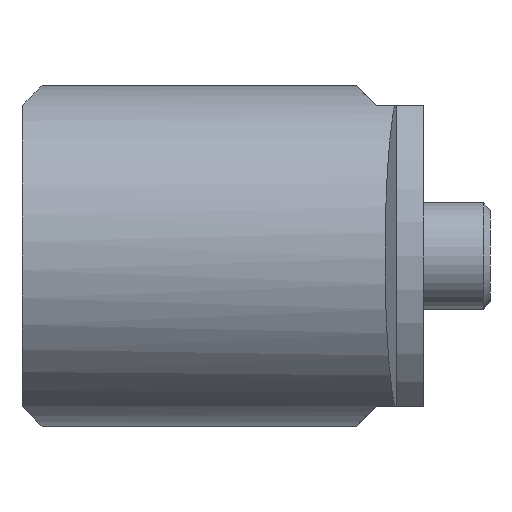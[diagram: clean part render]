
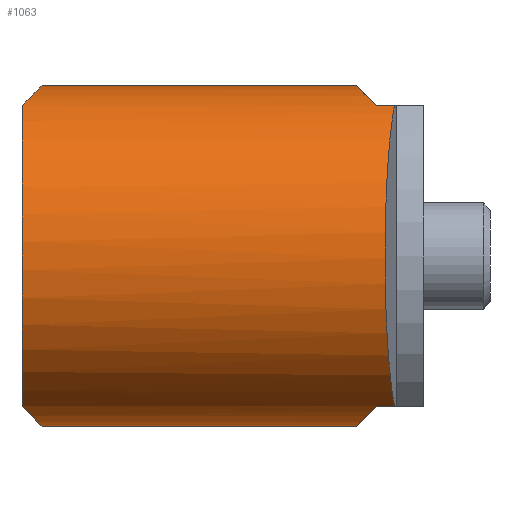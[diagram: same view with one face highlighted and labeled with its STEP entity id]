
A CAD part, left-side view. The second image highlights one B-rep face of the part: STEP entity #1063.
In plain terms, the highlighted cylindrical face has radius 12.75 mm (diameter 25.5 mm), a partial arc.
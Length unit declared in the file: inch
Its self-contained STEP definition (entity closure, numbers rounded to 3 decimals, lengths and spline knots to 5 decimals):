
#22=ELLIPSE('',#1148,0.70989,0.50197);
#23=ELLIPSE('',#1151,0.70989,0.50197);
#24=ELLIPSE('',#1154,0.70989,0.50197);
#25=ELLIPSE('',#1156,0.70989,0.50197);
#26=ELLIPSE('',#1160,0.50473,0.50197);
#90=FACE_OUTER_BOUND('',#152,.T.);
#152=EDGE_LOOP('',(#726,#727,#728,#729,#730,#731,#732,#733,#734,#735));
#222=LINE('',#1685,#277);
#235=LINE('',#1715,#290);
#244=LINE('',#1740,#299);
#245=LINE('',#1742,#300);
#277=VECTOR('',#1325,0.3937);
#290=VECTOR('',#1344,0.3937);
#299=VECTOR('',#1371,0.3937);
#300=VECTOR('',#1374,0.3937);
#336=CIRCLE('',#1162,0.50197);
#422=VERTEX_POINT('',#1675);
#423=VERTEX_POINT('',#1676);
#426=VERTEX_POINT('',#1684);
#431=VERTEX_POINT('',#1696);
#432=VERTEX_POINT('',#1697);
#439=VERTEX_POINT('',#1712);
#440=VERTEX_POINT('',#1714);
#442=VERTEX_POINT('',#1720);
#444=VERTEX_POINT('',#1726);
#445=VERTEX_POINT('',#1727);
#533=EDGE_CURVE('',#422,#423,#22,.T.);
#537=EDGE_CURVE('',#423,#426,#222,.T.);
#543=EDGE_CURVE('',#431,#432,#23,.T.);
#551=EDGE_CURVE('',#440,#439,#235,.T.);
#554=EDGE_CURVE('',#439,#442,#24,.T.);
#557=EDGE_CURVE('',#444,#445,#25,.T.);
#563=EDGE_CURVE('',#426,#440,#26,.T.);
#564=EDGE_CURVE('',#442,#444,#244,.T.);
#565=EDGE_CURVE('',#431,#445,#336,.T.);
#566=EDGE_CURVE('',#422,#432,#245,.T.);
#726=ORIENTED_EDGE('',*,*,#533,.T.);
#727=ORIENTED_EDGE('',*,*,#537,.T.);
#728=ORIENTED_EDGE('',*,*,#563,.T.);
#729=ORIENTED_EDGE('',*,*,#551,.T.);
#730=ORIENTED_EDGE('',*,*,#554,.T.);
#731=ORIENTED_EDGE('',*,*,#564,.T.);
#732=ORIENTED_EDGE('',*,*,#557,.T.);
#733=ORIENTED_EDGE('',*,*,#565,.F.);
#734=ORIENTED_EDGE('',*,*,#543,.T.);
#735=ORIENTED_EDGE('',*,*,#566,.F.);
#966=CYLINDRICAL_SURFACE('',#1161,0.50197);
#1063=ADVANCED_FACE('',(#90),#966,.T.);
#1148=AXIS2_PLACEMENT_3D('',#1677,#1318,#1319);
#1151=AXIS2_PLACEMENT_3D('',#1698,#1333,#1334);
#1154=AXIS2_PLACEMENT_3D('',#1721,#1349,#1350);
#1156=AXIS2_PLACEMENT_3D('',#1728,#1355,#1356);
#1160=AXIS2_PLACEMENT_3D('',#1738,#1367,#1368);
#1161=AXIS2_PLACEMENT_3D('',#1739,#1369,#1370);
#1162=AXIS2_PLACEMENT_3D('',#1741,#1372,#1373);
#1318=DIRECTION('center_axis',(0.,0.707,0.707));
#1319=DIRECTION('ref_axis',(0.,-0.707,0.707));
#1325=DIRECTION('',(0.,-1.,0.));
#1333=DIRECTION('center_axis',(0.,-0.707,0.707));
#1334=DIRECTION('ref_axis',(0.,0.707,0.707));
#1344=DIRECTION('',(0.,1.,0.));
#1349=DIRECTION('center_axis',(0.,0.707,-0.707));
#1350=DIRECTION('ref_axis',(0.,0.707,0.707));
#1355=DIRECTION('center_axis',(0.,-0.707,-0.707));
#1356=DIRECTION('ref_axis',(0.,-0.707,0.707));
#1367=DIRECTION('center_axis',(0.105,0.995,0.));
#1368=DIRECTION('ref_axis',(-0.995,0.105,0.));
#1369=DIRECTION('center_axis',(0.,-1.,0.));
#1370=DIRECTION('ref_axis',(0.,0.,1.));
#1371=DIRECTION('',(0.,1.,0.));
#1372=DIRECTION('center_axis',(0.,1.,0.));
#1373=DIRECTION('ref_axis',(0.,0.,1.));
#1374=DIRECTION('',(0.,1.,0.));
#1675=CARTESIAN_POINT('',(-0.24641,-0.27051,-0.50197));
#1676=CARTESIAN_POINT('',(-0.48263,-0.32957,-0.44291));
#1677=CARTESIAN_POINT('Origin',(-0.24641,-0.77248,0.));
#1684=CARTESIAN_POINT('',(-0.48263,-0.38304,-0.44291));
#1685=CARTESIAN_POINT('',(-0.48263,0.71374,-0.44291));
#1696=CARTESIAN_POINT('',(-0.48263,0.71374,-0.44291));
#1697=CARTESIAN_POINT('',(-0.24641,0.65468,-0.50197));
#1698=CARTESIAN_POINT('Origin',(-0.24641,1.15665,0.));
#1712=CARTESIAN_POINT('',(-0.48263,-0.32957,0.44291));
#1714=CARTESIAN_POINT('',(-0.48263,-0.38304,0.44291));
#1715=CARTESIAN_POINT('',(-0.48263,0.71374,0.44291));
#1720=CARTESIAN_POINT('',(-0.24641,-0.27051,0.50197));
#1721=CARTESIAN_POINT('Origin',(-0.24641,-0.77248,0.));
#1726=CARTESIAN_POINT('',(-0.24641,0.65468,0.50197));
#1727=CARTESIAN_POINT('',(-0.48263,0.71374,0.44291));
#1728=CARTESIAN_POINT('Origin',(-0.24641,1.15665,0.));
#1738=CARTESIAN_POINT('Origin',(-0.24641,-0.40787,0.));
#1739=CARTESIAN_POINT('Origin',(-0.24641,0.71374,0.));
#1740=CARTESIAN_POINT('',(-0.24641,0.71374,0.50197));
#1741=CARTESIAN_POINT('Origin',(-0.24641,0.71374,0.));
#1742=CARTESIAN_POINT('',(-0.24641,0.71374,-0.50197));
